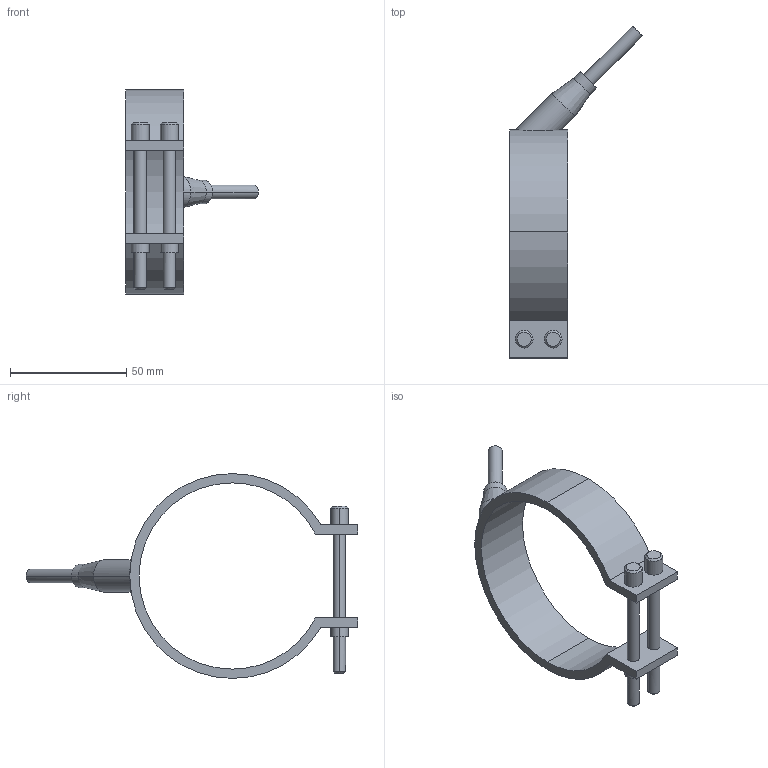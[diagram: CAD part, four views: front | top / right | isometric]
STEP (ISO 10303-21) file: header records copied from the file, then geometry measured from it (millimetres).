
FILE_DESCRIPTION(('CATIA V5 STEP Exchange'),'2;1');
FILE_NAME('C:\Users\Utente\Desktop\IO LAVORO\3D X SITO CF\X SITO\PLASTICA\RF1\29080025.stp','2021-03-29T18:11:58+00:00',('none'),('none'),'CATIA Version 5 Release 20 GA (IN-10)','CATIA V5 STEP AP203','none');
FILE_SCHEMA(('CONFIG_CONTROL_DESIGN'));
Length unit declared in the file: millimetre
Products named in the file (1): 29080025
Bounding box: 57.05 x 142.55 x 88 mm (x, y, z)
Volume: 33816.1 mm3; surface area: 18911.2 mm2
Topology: 1 solids, 1 shells, 54 faces, 123 edges, 79 vertices
Faces by surface type: cylinder 28, plane 16, cone 10
Entity records: 1740 total; most frequent: CARTESIAN_POINT 510, ORIENTED_EDGE 246, DIRECTION 212, EDGE_CURVE 123, AXIS2_PLACEMENT_3D 105, VERTEX_POINT 79, EDGE_LOOP 66, VECTOR 56
